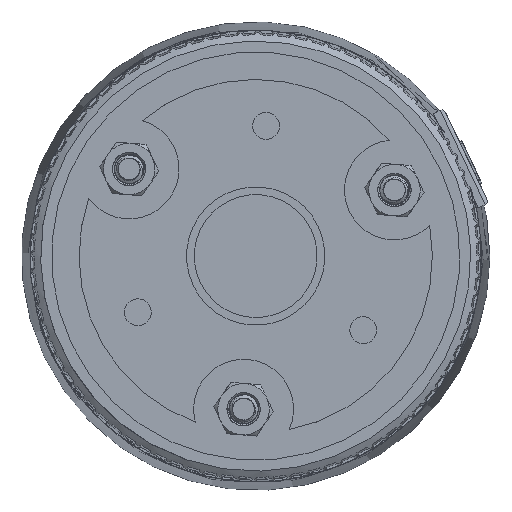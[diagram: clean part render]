
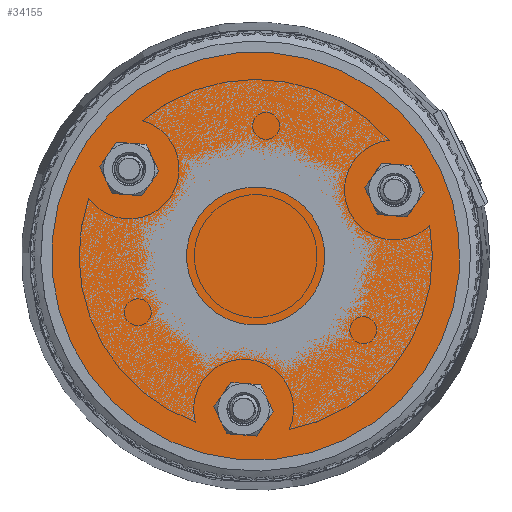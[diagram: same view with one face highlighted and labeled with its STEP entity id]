
A CAD part, front view. The second image highlights one B-rep face of the part: STEP entity #34155.
In plain terms, the highlighted planar face has unit normal (0, -1, 0).
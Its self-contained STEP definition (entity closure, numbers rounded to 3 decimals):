
#3859 = CARTESIAN_POINT ( 'NONE',  ( 0., 0., 26.57 ) ) ;
#6657 = PLANE ( 'NONE',  #27055 ) ;
#7359 = EDGE_CURVE ( 'NONE', #60341, #60341, #15121, .T. ) ;
#15121 = CIRCLE ( 'NONE', #28185, 26.57 ) ;
#19858 = EDGE_LOOP ( 'NONE', ( #27454 ) ) ;
#23298 = DIRECTION ( 'NONE',  ( 0., 1., 0. ) ) ;
#27055 = AXIS2_PLACEMENT_3D ( 'NONE', #27387, #48162, #43033 ) ;
#27387 = CARTESIAN_POINT ( 'NONE',  ( 26.57, 0., 0. ) ) ;
#27454 = ORIENTED_EDGE ( 'NONE', *, *, #7359, .F. ) ;
#28185 = AXIS2_PLACEMENT_3D ( 'NONE', #37935, #23298, #43051 ) ;
#34155 = ADVANCED_FACE ( 'NONE', ( #53265 ), #6657, .T. ) ;
#37935 = CARTESIAN_POINT ( 'NONE',  ( 0., 0., 0. ) ) ;
#43033 = DIRECTION ( 'NONE',  ( 0., 0., -1. ) ) ;
#43051 = DIRECTION ( 'NONE',  ( 0., 0., 1. ) ) ;
#48162 = DIRECTION ( 'NONE',  ( 0., -1., 0. ) ) ;
#53265 = FACE_OUTER_BOUND ( 'NONE', #19858, .T. ) ;
#60341 = VERTEX_POINT ( 'NONE', #3859 ) ;
